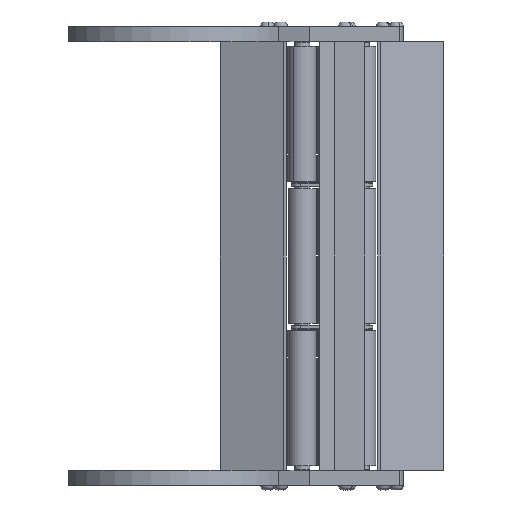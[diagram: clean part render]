
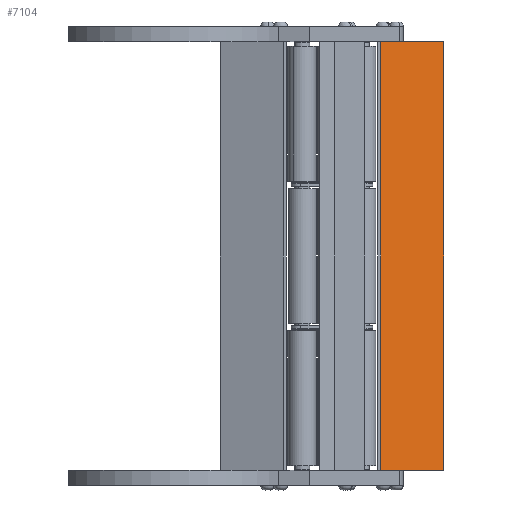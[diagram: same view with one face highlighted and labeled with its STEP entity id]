
A CAD part, front view. The second image highlights one B-rep face of the part: STEP entity #7104.
In plain terms, the highlighted planar face has unit normal (0.342, -0.94, 0).
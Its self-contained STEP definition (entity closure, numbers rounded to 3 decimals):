
#774 = CARTESIAN_POINT ( 'NONE',  ( 1.655, 0., 227. ) ) ;
#838 = CARTESIAN_POINT ( 'NONE',  ( 35., 12.137, 0. ) ) ;
#1505 = VECTOR ( 'NONE', #8632, 1000. ) ;
#2045 = LINE ( 'NONE', #838, #18018 ) ;
#2351 = DIRECTION ( 'NONE',  ( -0.94, -0.342, 0. ) ) ;
#2904 = VERTEX_POINT ( 'NONE', #12503 ) ;
#2983 = EDGE_CURVE ( 'NONE', #6777, #2904, #6761, .T. ) ;
#3020 = CARTESIAN_POINT ( 'NONE',  ( 35., 12.137, 227. ) ) ;
#3468 = EDGE_CURVE ( 'NONE', #9228, #3469, #14876, .T. ) ;
#3469 = VERTEX_POINT ( 'NONE', #10667 ) ;
#3835 = EDGE_CURVE ( 'NONE', #3469, #2904, #2045, .T. ) ;
#3867 = ORIENTED_EDGE ( 'NONE', *, *, #11396, .F. ) ;
#5090 = DIRECTION ( 'NONE',  ( 0., 0., -1. ) ) ;
#6761 = LINE ( 'NONE', #12411, #12918 ) ;
#6777 = VERTEX_POINT ( 'NONE', #3020 ) ;
#7104 = ADVANCED_FACE ( 'NONE', ( #9347 ), #16409, .F. ) ;
#8510 = ORIENTED_EDGE ( 'NONE', *, *, #3468, .T. ) ;
#8632 = DIRECTION ( 'NONE',  ( 0.94, 0.342, 0. ) ) ;
#8745 = ORIENTED_EDGE ( 'NONE', *, *, #3835, .T. ) ;
#9113 = EDGE_LOOP ( 'NONE', ( #8745, #17922, #3867, #8510 ) ) ;
#9228 = VERTEX_POINT ( 'NONE', #10989 ) ;
#9347 = FACE_OUTER_BOUND ( 'NONE', #9113, .T. ) ;
#10667 = CARTESIAN_POINT ( 'NONE',  ( 1.655, 0., 0. ) ) ;
#10989 = CARTESIAN_POINT ( 'NONE',  ( 1.655, 0., 227. ) ) ;
#11279 = DIRECTION ( 'NONE',  ( 0., 0., -1. ) ) ;
#11396 = EDGE_CURVE ( 'NONE', #9228, #6777, #14370, .T. ) ;
#12411 = CARTESIAN_POINT ( 'NONE',  ( 35., 12.137, 227. ) ) ;
#12503 = CARTESIAN_POINT ( 'NONE',  ( 35., 12.137, 0. ) ) ;
#12918 = VECTOR ( 'NONE', #11279, 1000. ) ;
#13549 = VECTOR ( 'NONE', #5090, 1000. ) ;
#13550 = DIRECTION ( 'NONE',  ( 0.94, 0.342, 0. ) ) ;
#13757 = CARTESIAN_POINT ( 'NONE',  ( 35., 12.137, 227. ) ) ;
#14251 = AXIS2_PLACEMENT_3D ( 'NONE', #13757, #16683, #2351 ) ;
#14370 = LINE ( 'NONE', #18540, #1505 ) ;
#14876 = LINE ( 'NONE', #774, #13549 ) ;
#16409 = PLANE ( 'NONE',  #14251 ) ;
#16683 = DIRECTION ( 'NONE',  ( -0.342, 0.94, 0. ) ) ;
#17922 = ORIENTED_EDGE ( 'NONE', *, *, #2983, .F. ) ;
#18018 = VECTOR ( 'NONE', #13550, 1000. ) ;
#18540 = CARTESIAN_POINT ( 'NONE',  ( 1.655, 0., 227. ) ) ;
